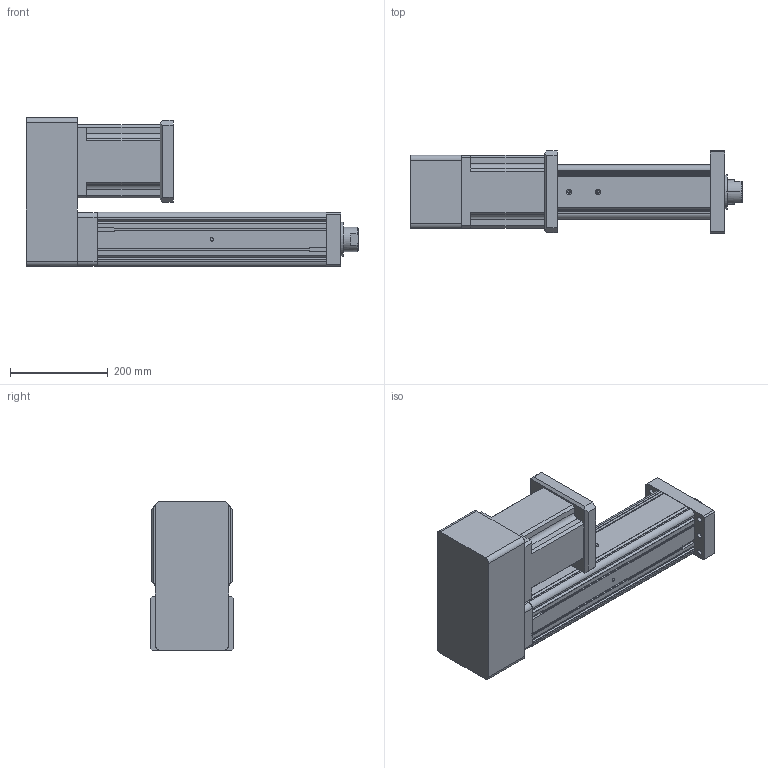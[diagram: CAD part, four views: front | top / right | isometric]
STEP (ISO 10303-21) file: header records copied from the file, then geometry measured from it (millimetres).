
FILE_DESCRIPTION (( 'STEP AP203' ), '1' );
FILE_NAME ('YRJ110-L300-H3K2.STEP', '2020-01-04T06:32:51', ( 'User' ), ( 'China' ), 'SwSTEP 2.0', 'SolidWorks 2016', '' );
FILE_SCHEMA (( 'CONFIG_CONTROL_DESIGN' ));
Length unit declared in the file: millimetre
Products named in the file (7): H3-110-2; K2-110; YRJ110-L300-H3K2; 095-100俴最倰第; 萇儂碟-110; 142熬厒儂; H3-110-1
Assembly tree (6 placements, depth 2):
  YRJ110-L300-H3K2
    095-100俴最倰第
    萇儂碟-110
    142熬厒儂
    H3-110-1
    H3-110-2
    K2-110
Bounding box: 681 x 170 x 305.5 mm (x, y, z)
Volume: 11874030.9 mm3; surface area: 912123.6 mm2
Topology: 6 solids, 6 shells, 306 faces, 850 edges, 549 vertices
Faces by surface type: plane 165, cylinder 114, cone 27
Entity records: 10786 total; most frequent: CARTESIAN_POINT 2038, DIRECTION 1685, ORIENTED_EDGE 1668, EDGE_CURVE 834, LINE 569, VECTOR 569, AXIS2_PLACEMENT_3D 558, VERTEX_POINT 549
